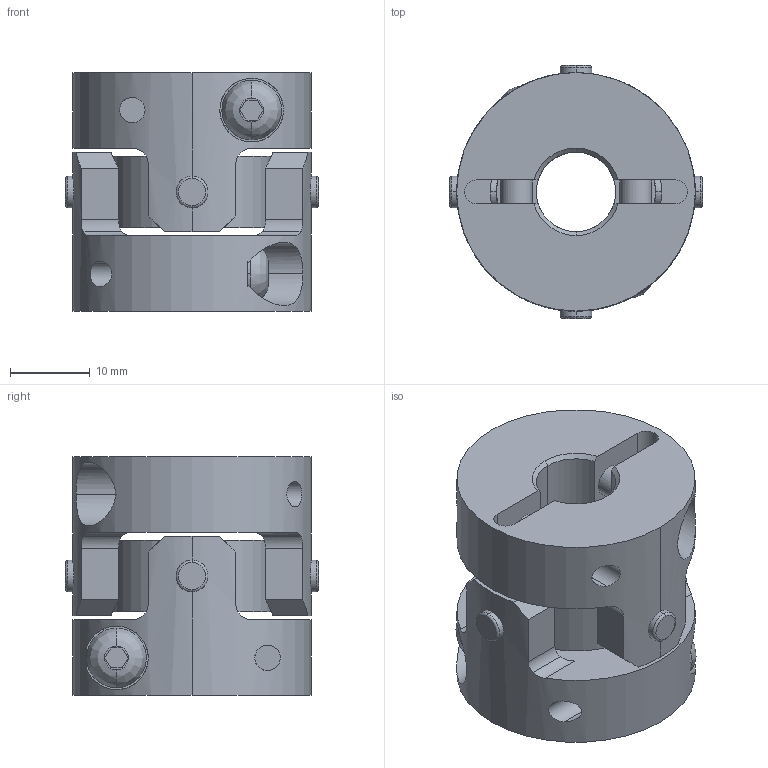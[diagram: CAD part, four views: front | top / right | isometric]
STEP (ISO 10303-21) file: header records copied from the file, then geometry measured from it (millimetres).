
FILE_DESCRIPTION((''),'2;1');
FILE_NAME('UA-30C-10×11.stp','2013-05-21T15:04:36',(''),(''),'AutoCAD STEP 2000i','AutoCAD 2000i',', , ');
FILE_SCHEMA(('CONFIG_CONTROL_DESIGN'));
Length unit declared in the file: millimetre
Products named in the file (7): UA-30C-6×11; 忣兜1; UA-3002-D11; BTN-M4; UA-3002-D06-1; UA-3002-D06; UA30-SEN
Assembly tree (8 placements, depth 3):
  UA-30C-6×11
    忣兜1
    UA-3002-D11
      BTN-M4
    UA-3002-D06-1
      BTN-M4
    UA-3002-D06
      BTN-M4
    UA30-SEN
Bounding box: 31.82 x 31.82 x 30 mm (x, y, z)
Volume: 14312 mm3; surface area: 8685.8 mm2
Topology: 1 solids, 1 shells, 206 faces, 554 edges, 364 vertices
Faces by surface type: cylinder 96, plane 78, cone 16, bspline 8, torus 8
Entity records: 8477 total; most frequent: CARTESIAN_POINT 3141, ORIENTED_EDGE 1108, DIRECTION 1068, EDGE_CURVE 554, AXIS2_PLACEMENT_3D 411, VERTEX_POINT 364, VECTOR 246, LINE 246
